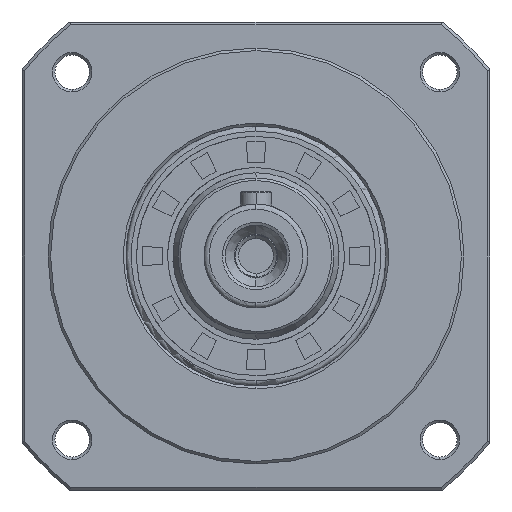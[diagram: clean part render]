
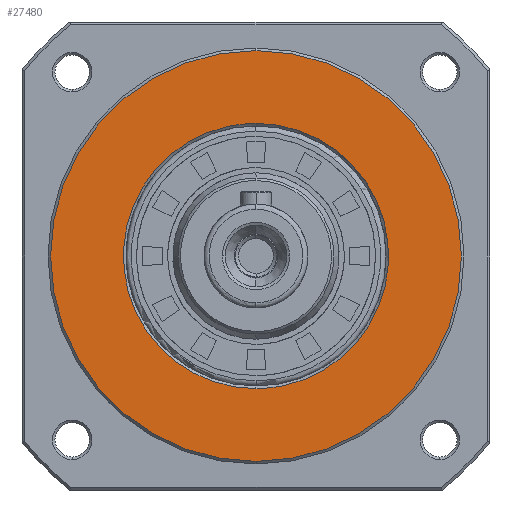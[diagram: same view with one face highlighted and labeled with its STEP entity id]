
A CAD part, left-side view. The second image highlights one B-rep face of the part: STEP entity #27480.
In plain terms, the highlighted planar face has unit normal (-1, 0, 0).
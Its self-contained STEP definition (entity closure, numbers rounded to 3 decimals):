
#233 = CARTESIAN_POINT ( 'NONE',  ( 0., -11.305, 22.918 ) ) ;
#1065 = EDGE_CURVE ( 'NONE', #10849, #77695, #63609, .T. ) ;
#1644 = CARTESIAN_POINT ( 'NONE',  ( 0., -15.559, -20.272 ) ) ;
#2761 = VERTEX_POINT ( 'NONE', #9034 ) ;
#4102 = CARTESIAN_POINT ( 'NONE',  ( 0., 25.5, -1.674 ) ) ;
#4444 = CARTESIAN_POINT ( 'NONE',  ( 0., 3.333, -25.337 ) ) ;
#4797 = CARTESIAN_POINT ( 'NONE',  ( 0., 19.215, -16.848 ) ) ;
#5608 = VERTEX_POINT ( 'NONE', #47475 ) ;
#8080 = CARTESIAN_POINT ( 'NONE',  ( 0., -25.5, -1.674 ) ) ;
#8319 = ORIENTED_EDGE ( 'NONE', *, *, #22276, .F. ) ;
#9034 = CARTESIAN_POINT ( 'NONE',  ( 0., 0., -39.5 ) ) ;
#9095 = CARTESIAN_POINT ( 'NONE',  ( 0., -16.848, -19.215 ) ) ;
#9434 = CARTESIAN_POINT ( 'NONE',  ( 0., 0., -25.5 ) ) ;
#10849 = VERTEX_POINT ( 'NONE', #93889 ) ;
#11875 = CARTESIAN_POINT ( 'NONE',  ( 0., 0., -25.5 ) ) ;
#12232 = CARTESIAN_POINT ( 'NONE',  ( 0., 25.337, 3.333 ) ) ;
#12398 = DIRECTION ( 'NONE',  ( 0., 0., -1. ) ) ;
#12940 = CARTESIAN_POINT ( 'NONE',  ( 0., 15.559, -20.272 ) ) ;
#13632 = CARTESIAN_POINT ( 'NONE',  ( 0., 24.683, 6.617 ) ) ;
#15207 = CARTESIAN_POINT ( 'NONE',  ( 0., -1.674, 25.5 ) ) ;
#15909 = CARTESIAN_POINT ( 'NONE',  ( 0., -15.559, 20.272 ) ) ;
#16311 = CARTESIAN_POINT ( 'NONE',  ( 0., 0., 0. ) ) ;
#16593 = CARTESIAN_POINT ( 'NONE',  ( 0., -12.775, 22.132 ) ) ;
#21847 = CARTESIAN_POINT ( 'NONE',  ( 0., 22.132, 12.775 ) ) ;
#22276 = EDGE_CURVE ( 'NONE', #5608, #2761, #27807, .T. ) ;
#22616 = CARTESIAN_POINT ( 'NONE',  ( 0., -39.974, 39.974 ) ) ;
#22973 = DIRECTION ( 'NONE',  ( 0., 0., -1. ) ) ;
#23269 = CARTESIAN_POINT ( 'NONE',  ( 0., 1.675, 25.5 ) ) ;
#23758 = CARTESIAN_POINT ( 'NONE',  ( 0., -22.918, -11.305 ) ) ;
#24437 = CARTESIAN_POINT ( 'NONE',  ( 0., -24.683, -6.617 ) ) ;
#25489 = CARTESIAN_POINT ( 'NONE',  ( 0., -12.775, -22.133 ) ) ;
#26103 = B_SPLINE_CURVE_WITH_KNOTS ( 'NONE', 3,
 ( #63950, #15207, #31944, #73133, #64657, #233, #16593, #15909, #81005, #57146, #72441, #81346, #32293, #72087, #73474, #56799, #89144, #8080, #47939, #24437, #32640, #23758, #40138, #40468, #26206, #9095, #1644, #25489, #58206, #83083, #91609, #74885, #66755, #9434 ),
 .UNSPECIFIED., .F., .F.,
 ( 4, 2, 2, 2, 2, 2, 2, 2, 2, 2, 2, 2, 2, 2, 2, 2, 4 ),
 ( 0., 0.031, 0.063, 0.094, 0.125, 0.156, 0.188, 0.219, 0.25, 0.281, 0.313, 0.344, 0.375, 0.406, 0.438, 0.469, 0.5 ),
 .UNSPECIFIED. ) ;
#26206 = CARTESIAN_POINT ( 'NONE',  ( 0., -19.215, -16.848 ) ) ;
#27480 = ADVANCED_FACE ( 'NONE', ( #45905, #29396 ), #53939, .F. ) ;
#27807 = CIRCLE ( 'NONE', #79773, 39.5 ) ;
#28120 = DIRECTION ( 'NONE',  ( 1., 0., 0. ) ) ;
#29365 = CARTESIAN_POINT ( 'NONE',  ( 0., 24.683, -6.617 ) ) ;
#29396 = FACE_OUTER_BOUND ( 'NONE', #77018, .T. ) ;
#31944 = CARTESIAN_POINT ( 'NONE',  ( 0., -3.333, 25.337 ) ) ;
#32293 = CARTESIAN_POINT ( 'NONE',  ( 0., -22.918, 11.305 ) ) ;
#32348 = DIRECTION ( 'NONE',  ( 1., 0., 0. ) ) ;
#32640 = CARTESIAN_POINT ( 'NONE',  ( 0., -24.2, -8.212 ) ) ;
#36326 = CARTESIAN_POINT ( 'NONE',  ( 0., 0., 0. ) ) ;
#36515 = CARTESIAN_POINT ( 'NONE',  ( 0., 20.272, -15.559 ) ) ;
#36599 = CIRCLE ( 'NONE', #95521, 39.5 ) ;
#37550 = CARTESIAN_POINT ( 'NONE',  ( 0., 25.337, -3.333 ) ) ;
#38950 = CARTESIAN_POINT ( 'NONE',  ( 0., 15.559, 20.272 ) ) ;
#40138 = CARTESIAN_POINT ( 'NONE',  ( 0., -22.132, -12.775 ) ) ;
#40468 = CARTESIAN_POINT ( 'NONE',  ( 0., -20.272, -15.559 ) ) ;
#40524 = EDGE_LOOP ( 'NONE', ( #97620, #44614 ) ) ;
#44614 = ORIENTED_EDGE ( 'NONE', *, *, #1065, .T. ) ;
#44991 = CARTESIAN_POINT ( 'NONE',  ( 0., 6.617, -24.683 ) ) ;
#45352 = CARTESIAN_POINT ( 'NONE',  ( 0., 8.212, -24.2 ) ) ;
#45604 = EDGE_CURVE ( 'NONE', #2761, #5608, #36599, .T. ) ;
#45905 = FACE_BOUND ( 'NONE', #40524, .T. ) ;
#47475 = CARTESIAN_POINT ( 'NONE',  ( 0., 0., 39.5 ) ) ;
#47939 = CARTESIAN_POINT ( 'NONE',  ( 0., -25.337, -3.333 ) ) ;
#48352 = DIRECTION ( 'NONE',  ( 0., 0., -1. ) ) ;
#53180 = CARTESIAN_POINT ( 'NONE',  ( 0., 22.133, -12.775 ) ) ;
#53939 = PLANE ( 'NONE',  #59664 ) ;
#54915 = CARTESIAN_POINT ( 'NONE',  ( 0., 20.272, 15.559 ) ) ;
#55264 = CARTESIAN_POINT ( 'NONE',  ( 0., 22.918, 11.305 ) ) ;
#55623 = CARTESIAN_POINT ( 'NONE',  ( 0., 3.333, 25.337 ) ) ;
#56799 = CARTESIAN_POINT ( 'NONE',  ( 0., -25.337, 3.333 ) ) ;
#57146 = CARTESIAN_POINT ( 'NONE',  ( 0., -19.215, 16.848 ) ) ;
#57887 = CARTESIAN_POINT ( 'NONE',  ( 0., 0., 25.5 ) ) ;
#58206 = CARTESIAN_POINT ( 'NONE',  ( 0., -11.305, -22.918 ) ) ;
#59664 = AXIS2_PLACEMENT_3D ( 'NONE', #22616, #62105, #22973 ) ;
#60696 = ORIENTED_EDGE ( 'NONE', *, *, #45604, .F. ) ;
#61012 = CARTESIAN_POINT ( 'NONE',  ( 0., 25.5, 1.674 ) ) ;
#61697 = CARTESIAN_POINT ( 'NONE',  ( 0., 24.2, -8.212 ) ) ;
#62105 = DIRECTION ( 'NONE',  ( 1., 0., 0. ) ) ;
#63448 = CARTESIAN_POINT ( 'NONE',  ( 0., 11.305, 22.918 ) ) ;
#63609 = B_SPLINE_CURVE_WITH_KNOTS ( 'NONE', 3,
 ( #11875, #68800, #4444, #44991, #45352, #101944, #76991, #12940, #85184, #4797, #36515, #53180, #93348, #61697, #29365, #37550, #4102, #61012, #12232, #13632, #87965, #55264, #21847, #54915, #71597, #103715, #38950, #71254, #63448, #104423, #80169, #55623, #23269, #79441 ),
 .UNSPECIFIED., .F., .F.,
 ( 4, 2, 2, 2, 2, 2, 2, 2, 2, 2, 2, 2, 2, 2, 2, 2, 4 ),
 ( 0.5, 0.531, 0.563, 0.594, 0.625, 0.656, 0.688, 0.719, 0.75, 0.781, 0.813, 0.844, 0.875, 0.906, 0.938, 0.969, 1. ),
 .UNSPECIFIED. ) ;
#63950 = CARTESIAN_POINT ( 'NONE',  ( 0., 0., 25.5 ) ) ;
#64657 = CARTESIAN_POINT ( 'NONE',  ( 0., -8.212, 24.2 ) ) ;
#66755 = CARTESIAN_POINT ( 'NONE',  ( 0., -1.674, -25.5 ) ) ;
#68800 = CARTESIAN_POINT ( 'NONE',  ( 0., 1.674, -25.5 ) ) ;
#71254 = CARTESIAN_POINT ( 'NONE',  ( 0., 12.775, 22.133 ) ) ;
#71597 = CARTESIAN_POINT ( 'NONE',  ( 0., 19.215, 16.848 ) ) ;
#72087 = CARTESIAN_POINT ( 'NONE',  ( 0., -24.2, 8.212 ) ) ;
#72441 = CARTESIAN_POINT ( 'NONE',  ( 0., -20.272, 15.559 ) ) ;
#73133 = CARTESIAN_POINT ( 'NONE',  ( 0., -6.617, 24.683 ) ) ;
#73474 = CARTESIAN_POINT ( 'NONE',  ( 0., -24.683, 6.617 ) ) ;
#74885 = CARTESIAN_POINT ( 'NONE',  ( 0., -3.333, -25.337 ) ) ;
#76991 = CARTESIAN_POINT ( 'NONE',  ( 0., 12.775, -22.132 ) ) ;
#77018 = EDGE_LOOP ( 'NONE', ( #60696, #8319 ) ) ;
#77695 = VERTEX_POINT ( 'NONE', #57887 ) ;
#79441 = CARTESIAN_POINT ( 'NONE',  ( 0., 0., 25.5 ) ) ;
#79773 = AXIS2_PLACEMENT_3D ( 'NONE', #36326, #28120, #12398 ) ;
#80169 = CARTESIAN_POINT ( 'NONE',  ( 0., 6.617, 24.683 ) ) ;
#81005 = CARTESIAN_POINT ( 'NONE',  ( 0., -16.848, 19.215 ) ) ;
#81346 = CARTESIAN_POINT ( 'NONE',  ( 0., -22.133, 12.775 ) ) ;
#83083 = CARTESIAN_POINT ( 'NONE',  ( 0., -8.212, -24.2 ) ) ;
#85184 = CARTESIAN_POINT ( 'NONE',  ( 0., 16.848, -19.215 ) ) ;
#87965 = CARTESIAN_POINT ( 'NONE',  ( 0., 24.2, 8.212 ) ) ;
#89144 = CARTESIAN_POINT ( 'NONE',  ( 0., -25.5, 1.674 ) ) ;
#91609 = CARTESIAN_POINT ( 'NONE',  ( 0., -6.617, -24.683 ) ) ;
#91699 = EDGE_CURVE ( 'NONE', #77695, #10849, #26103, .T. ) ;
#93348 = CARTESIAN_POINT ( 'NONE',  ( 0., 22.918, -11.305 ) ) ;
#93889 = CARTESIAN_POINT ( 'NONE',  ( 0., 0., -25.5 ) ) ;
#95521 = AXIS2_PLACEMENT_3D ( 'NONE', #16311, #32348, #48352 ) ;
#97620 = ORIENTED_EDGE ( 'NONE', *, *, #91699, .T. ) ;
#101944 = CARTESIAN_POINT ( 'NONE',  ( 0., 11.305, -22.918 ) ) ;
#103715 = CARTESIAN_POINT ( 'NONE',  ( 0., 16.848, 19.215 ) ) ;
#104423 = CARTESIAN_POINT ( 'NONE',  ( 0., 8.212, 24.2 ) ) ;
